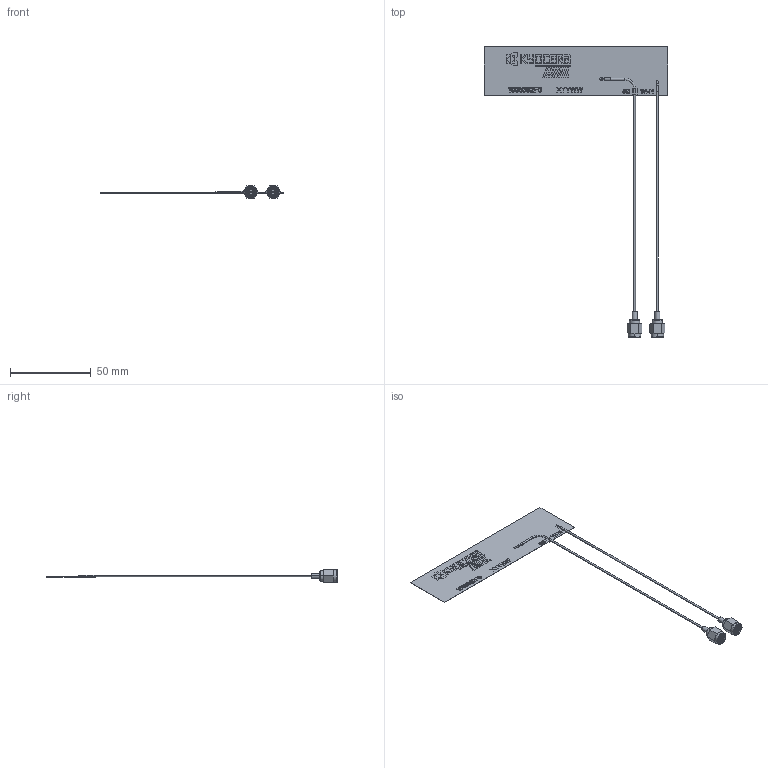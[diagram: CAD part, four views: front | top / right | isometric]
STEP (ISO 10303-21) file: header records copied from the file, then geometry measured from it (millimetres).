
FILE_DESCRIPTION((''),'2;1');
FILE_NAME('1005392F0-AS40L0150_B-ME-FIT_ASM','2026-08-24T17:26:19',('jarvayo'),(''),'CREO PARAMETRIC BY PTC INC, 2025183','CREO PARAMETRIC BY PTC INC, 2025183','');
FILE_SCHEMA(('AP203_CONFIGURATION_CONTROLLED_3D_DESIGN_OF_MECHANICAL_PARTS_AND_ASSEMBLIES_MIM_LF { 1 0 10303 403 2 1 2 }'));
Length unit declared in the file: millimetre
Products named in the file (7): 1005392F0-ME-FIT; 1005394-AS40LXXXX_CABLE; AMPHENOL_901-10107; 1005394-AS40LXXXX_ASM; 1005393-AS42LXXXX_CABLE; 1005393-AS42LXXXX_ASM; 1005392F0-AS40L0150_B-ME-FIT_ASM
Assembly tree (7 placements, depth 3):
  1005392F0-AS40L0150_B-ME-FIT_ASM
    1005392F0-ME-FIT
    1005394-AS40LXXXX_ASM
      1005394-AS40LXXXX_CABLE
      AMPHENOL_901-10107
    1005393-AS42LXXXX_ASM
      1005393-AS42LXXXX_CABLE
      AMPHENOL_901-10107
Bounding box: 114 x 180 x 7.92 mm (x, y, z)
Volume: 1664.5 mm3; surface area: 9183.3 mm2
Topology: 5 solids, 5 shells, 772 faces, 1984 edges, 1306 vertices
Faces by surface type: plane 416, bspline 223, cylinder 83, cone 44, torus 6
Entity records: 41626 total; most frequent: CARTESIAN_POINT 18853, ORIENTED_EDGE 3674, DIRECTION 2503, PRESENTATION_STYLE_ASSIGNMENT 1845, EDGE_CURVE 1837, STYLED_ITEM 1797, CURVE_STYLE 1773, VECTOR 1225
